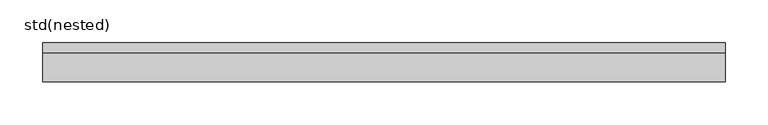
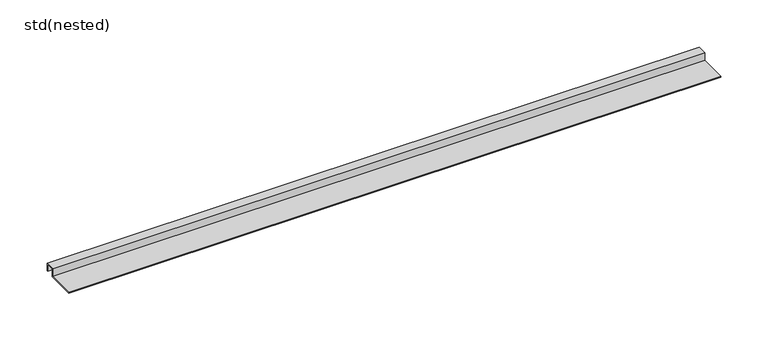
"""IFC4 building model written with IfcOpenShell, lengths in millimetres: sanitary terminal geometry, ZZZ_do not use_PF_ST_UN_ShowerStep Black_ACO : std(nested)."""

import ifcopenshell
import ifcopenshell.guid

model = None  # the IFC model being written
_history = None  # IfcOwnerHistory: only IFC2X3 demands one
_inside = {}  # id of a spatial element -> (the spatial element, [elements in it])
_under = {}  # id of a project, library or spatial element -> (it, [spatial elements below it])
_declared = {}  # id of a project -> (the project, [libraries it declares])
_typed = {}  # id of a type object -> (the type object, [elements of that type])
_made_of = {}  # id of a material, layer set ... -> (it, [elements and type objects made of it])


def new_model(schema):
    """Start an empty IFC model of exactly this schema.

    Asked for "IFC4X3", IfcOpenShell would pick the latest addendum, in which some entities
    have other attributes; the version numbers below select the first issue.
    IFC2X3 requires an IfcOwnerHistory on every rooted entity: one is made here for all.
    """
    global model, _history
    if schema == "IFC4X3":
        model = ifcopenshell.file(schema_version=(4, 3, 0, 0))
    else:
        model = ifcopenshell.file(schema=schema)
    _inside.clear()
    _under.clear()
    _declared.clear()
    _typed.clear()
    _made_of.clear()
    _history = None
    if model.schema == "IFC2X3":
        org = make("IfcOrganization", Name="unknown")
        user = make(
            "IfcPersonAndOrganization",
            ThePerson=make("IfcPerson", FamilyName="unknown"),
            TheOrganization=org,
        )
        app = make(
            "IfcApplication",
            ApplicationDeveloper=org,
            Version="unknown",
            ApplicationFullName="unknown",
            ApplicationIdentifier="unknown",
        )
        _history = make(
            "IfcOwnerHistory",
            OwningUser=user,
            OwningApplication=app,
            ChangeAction="ADDED",
            CreationDate=0,
        )
    return model


def make(cls, **values):
    """One entity of the class cls with the attributes given. An attribute that is None is left unset."""
    return model.create_entity(
        cls, **{name: value for name, value in values.items() if value is not None}
    )


def rooted(cls, **values):
    """An entity with a GlobalId (a new one), such as an element, a storey or a relation."""
    return make(cls, GlobalId=ifcopenshell.guid.new(), OwnerHistory=_history, **values)


def si_unit(unit_type, name, prefix=None):
    """IfcSIUnit, for example si_unit("LENGTHUNIT", "METRE", prefix="MILLI")."""
    return make("IfcSIUnit", UnitType=unit_type, Prefix=prefix, Name=name)


def assignment(units):
    """IfcUnitAssignment: the units of a project."""
    return None if units is None else make("IfcUnitAssignment", Units=units)


def point(xyz):
    """IfcCartesianPoint."""
    return None if xyz is None else make("IfcCartesianPoint", Coordinates=xyz)


def direction(xyz):
    """IfcDirection."""
    return None if xyz is None else make("IfcDirection", DirectionRatios=xyz)


def frame(location, z_axis=None, x_axis=None):
    """IfcAxis2Placement3D, a coordinate frame: its origin and axes. An axis left out is left unset."""
    return make(
        "IfcAxis2Placement3D",
        Location=point(location),
        Axis=direction(z_axis),
        RefDirection=direction(x_axis),
    )


def origin():
    """The frame at (0, 0, 0) with its axes left unset."""
    return frame((0.0, 0.0, 0.0))


def place(relative_to, where):
    """IfcLocalPlacement: puts the frame where relative to a parent placement (None: the world)."""
    return make(
        "IfcLocalPlacement", PlacementRelTo=relative_to, RelativePlacement=where
    )


def context(
    kind, dimensions, precision=None, world=None, true_north=None, identifier=None
):
    """IfcGeometricRepresentationContext, for example the 3D "Model" context."""
    return make(
        "IfcGeometricRepresentationContext",
        ContextIdentifier=identifier,
        ContextType=kind,
        CoordinateSpaceDimension=dimensions,
        Precision=precision,
        WorldCoordinateSystem=world,
        TrueNorth=true_north,
    )


def project(units=None, contexts=None):
    """IfcProject with its units and contexts."""
    return rooted(
        "IfcProject",
        Name="project",
        RepresentationContexts=contexts,
        UnitsInContext=assignment(units),
    )


def spatial(cls, under=None, at=None, **own):
    """A site, building, storey or space (cls), placed at a placement, below another one or the project."""
    s = rooted(cls, ObjectPlacement=at, **own)
    if under is not None:
        _under.setdefault(under.id(), (under, []))[1].append(s)
    return s


def faces_of(points, faces, orient=None, outer=None):
    """IfcFace entities. A face is a list of loops; a loop is a list of indices into points, from 0.

    orient and outer hold one flag for each loop. By default every Orientation is true, the
    first loop of a face is its IfcFaceOuterBound and the others are IfcFaceBound.
    """
    made = []
    for i, loops in enumerate(faces):
        bounds = []
        for j, loop in enumerate(loops):
            is_outer = j == 0 if outer is None else outer[i][j]
            bounds.append(
                make(
                    "IfcFaceOuterBound" if is_outer else "IfcFaceBound",
                    Bound=make("IfcPolyLoop", Polygon=[points[k] for k in loop]),
                    Orientation=True if orient is None else orient[i][j],
                )
            )
        made.append(make("IfcFace", Bounds=bounds))
    return made


def faceted_brep(points, faces, orient=None, outer=None, voids=None):
    """IfcFacetedBrep: a solid bounded by flat faces; with voids (closed shells), ...WithVoids."""
    shared = [point(p) for p in points]
    hull = make("IfcClosedShell", CfsFaces=faces_of(shared, faces, orient, outer))
    if voids is None:
        return make("IfcFacetedBrep", Outer=hull)
    return make(
        "IfcFacetedBrepWithVoids",
        Outer=hull,
        Voids=[
            make(cls, CfsFaces=faces_of(shared, fs, o, b)) for cls, fs, o, b in voids
        ],
    )


def shape(context_of_items, identifier, shape_type, items):
    """IfcShapeRepresentation: the items that make up one representation, for example the "Body"."""
    return make(
        "IfcShapeRepresentation",
        ContextOfItems=context_of_items,
        RepresentationIdentifier=identifier,
        RepresentationType=shape_type,
        Items=items,
    )


def source(mapping_origin, context_of_items, identifier, shape_type, items):
    """IfcRepresentationMap: a shape defined once, which mapped items show again and again."""
    return make(
        "IfcRepresentationMap",
        MappingOrigin=mapping_origin,
        MappedRepresentation=shape(context_of_items, identifier, shape_type, items),
    )


def transform(
    local_origin,
    x_axis=None,
    y_axis=None,
    z_axis=None,
    scale=None,
    scale2=None,
    scale3=None,
    uniform=True,
):
    """IfcCartesianTransformationOperator3D, or its non-uniform kind. x_axis, y_axis, z_axis: its Axis1, 2, 3."""
    if uniform:
        return make(
            "IfcCartesianTransformationOperator3D",
            Axis1=direction(x_axis),
            Axis2=direction(y_axis),
            LocalOrigin=point(local_origin),
            Scale=scale,
            Axis3=direction(z_axis),
        )
    return make(
        "IfcCartesianTransformationOperator3DnonUniform",
        Axis1=direction(x_axis),
        Axis2=direction(y_axis),
        LocalOrigin=point(local_origin),
        Scale=scale,
        Axis3=direction(z_axis),
        Scale2=scale2,
        Scale3=scale3,
    )


def mapped(mapping_source, mapping_target):
    """IfcMappedItem: shows the shape of a source again, moved by a transform."""
    return make(
        "IfcMappedItem", MappingSource=mapping_source, MappingTarget=mapping_target
    )


def made_of(thing, what):
    """Note that an element or type object is made of a material, layer set ...; save() writes the relation."""
    if what is not None:
        _made_of.setdefault(what.id(), (what, []))[1].append(thing)
    return thing


def element(
    cls,
    number,
    at=None,
    inside=None,
    cuts=None,
    type_object=None,
    material=None,
    context=None,
    identifier="Body",
    shape_type=None,
    held_by="IfcProductDefinitionShape",
    body=None,
    shapes=None,
    **own,
):
    """One element of the class cls, such as IfcWall. Its Tag is "e" and its number.

    at: its placement. inside: the storey or other place that contains it. cuts: it is an
    opening in that element (IfcRelVoidsElement). A single representation is given by context,
    identifier, shape_type and body (its items); several are given by shapes. held_by: the class
    of the entity that holds the representations. save() writes the other relations.
    """
    e = rooted(cls, Tag="e%d" % number, ObjectPlacement=at, **own)
    if body is not None:
        shapes = [shape(context, identifier, shape_type, body)]
    if shapes is not None:
        e.Representation = make(held_by, Representations=shapes)
    if inside is not None:
        _inside.setdefault(inside.id(), (inside, []))[1].append(e)
    if cuts is not None:
        rooted(
            "IfcRelVoidsElement", RelatingBuildingElement=cuts, RelatedOpeningElement=e
        )
    if type_object is not None:
        _typed.setdefault(type_object.id(), (type_object, []))[1].append(e)
    return made_of(e, material)


def aggregate(whole, parts):
    """IfcRelAggregates: a whole, such as a stair, and the parts it consists of."""
    return rooted("IfcRelAggregates", RelatingObject=whole, RelatedObjects=parts)


def save(model, path):
    """Write the relations noted so far, then the file.

    IfcRelAggregates (storeys below a building ...), IfcRelContainedInSpatialStructure (elements
    in a storey), IfcRelDefinesByType, IfcRelAssociatesMaterial and IfcRelDeclares: one each for
    every whole, place, type object, material and project.
    """
    for whole, parts in _under.values():
        aggregate(whole, parts)
    for where, things in _inside.values():
        rooted(
            "IfcRelContainedInSpatialStructure",
            RelatedElements=things,
            RelatingStructure=where,
        )
    for kind, things in _typed.values():
        rooted("IfcRelDefinesByType", RelatedObjects=things, RelatingType=kind)
    for what, things in _made_of.values():
        rooted("IfcRelAssociatesMaterial", RelatedObjects=things, RelatingMaterial=what)
    for by, libraries in _declared.values():
        rooted("IfcRelDeclares", RelatingContext=by, RelatedDefinitions=libraries)
    model.write(path)


def std_nested_338dee3e(model_context):
    return source(origin(), model_context, "Body", "Brep", [
        faceted_brep([(0.0, -1.0, -10.0), (0.0, -1.0, -1.0), (0.0, -11.0004219, -1.0), (0.0, -11.0004219, -11.0), (0.0, -46.0004219, -11.0), (0.0, -46.0004219, -10.0), (0.0, -12.0076915, -10.0), (0.0, -12.0076915, 0.0), (0.0, 0.0, 0.0), (0.0, 0.0, -10.0), (800.0, 0.0, -26.1616162), (800.0, -1.0, -26.1616162), (800.0, 0.0, 0.0), (800.0, -12.0076915, 0.0), (800.0, -12.0076915, -10.0), (800.0, -46.0004219, -10.0), (800.0, -46.0004219, -11.0), (800.0, -11.0004219, -11.0), (800.0, -11.0004219, -1.0), (800.0, -1.0, -1.0)], [[[0, 1, 2, 3, 4, 5, 6, 7, 8, 9]], [[0, 9, 10, 11]], [[9, 8, 12, 10]], [[8, 7, 13, 12]], [[7, 6, 14, 13]], [[6, 5, 15, 14]], [[5, 4, 16, 15]], [[4, 3, 17, 16]], [[3, 2, 18, 17]], [[2, 1, 19, 18]], [[1, 0, 11, 19]], [[11, 10, 12, 13, 14, 15, 16, 17, 18, 19]]]),
    ])


if __name__ == "__main__":
    model = new_model("IFC4")
    model_context = context("Model", 3, world=origin())
    ifc_project = project(units=[si_unit("LENGTHUNIT", "METRE", prefix="MILLI")], contexts=[model_context])
    site = spatial("IfcSite", under=ifc_project)
    building = spatial("IfcBuilding", under=site)
    placement = place(None, origin())
    std_nested_shape = std_nested_338dee3e(model_context)
    element("IfcSanitaryTerminal", 1, ObjectType="ZZZ_do not use_PF_ST_UN_ShowerStep Black_ACO : std(nested)", at=placement, inside=building, context=model_context, shape_type="MappedRepresentation", body=[
        mapped(std_nested_shape, transform((0.0, 0.0, 0.0), x_axis=(1.0, 0.0, 0.0), y_axis=(0.0, 1.0, 0.0), z_axis=(0.0, 0.0, 1.0))),
    ])
    save(model, "model.ifc")
